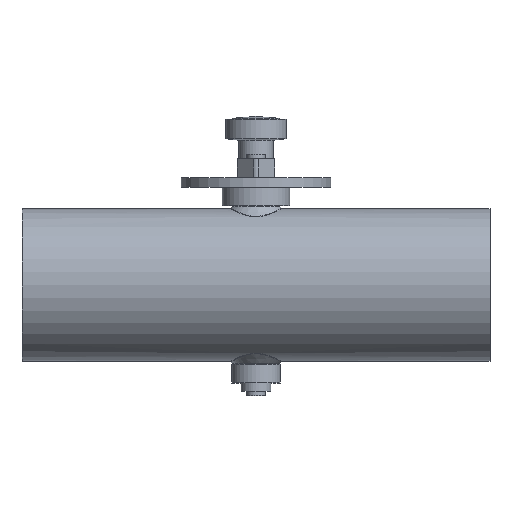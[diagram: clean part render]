
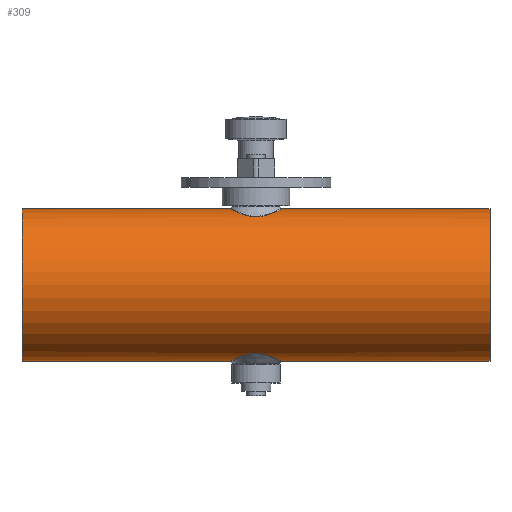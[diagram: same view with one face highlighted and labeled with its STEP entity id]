
A CAD part, top view. The second image highlights one B-rep face of the part: STEP entity #309.
In plain terms, the highlighted cylindrical face has radius 40.8 mm (diameter 81.6 mm), a full revolution.
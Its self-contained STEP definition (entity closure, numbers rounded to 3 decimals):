
#267=CYLINDRICAL_SURFACE('',#1320,40.8);
#299=B_SPLINE_CURVE_WITH_KNOTS('',3,(#1859,#1860,#1861,#1862,#1863,#1864,
#1865,#1866,#1867,#1868,#1869,#1870,#1871,#1872,#1873,#1874,#1875,#1876,
#1877,#1878,#1879,#1880,#1881,#1882,#1883,#1884,#1885,#1886),.UNSPECIFIED.,
 .T.,.F.,(2,2,2,2,2,2,2,2,2,2,2,2,2,2,2,2),(-0.063,0.,0.125,
0.25,0.313,0.375,0.438,
0.5,0.563,0.625,0.75,0.813,0.875,
0.938,1.,1.125),.UNSPECIFIED.);
#300=B_SPLINE_CURVE_WITH_KNOTS('',3,(#1888,#1889,#1890,#1891,#1892,#1893,
#1894,#1895,#1896,#1897,#1898,#1899,#1900,#1901,#1902,#1903,#1904,#1905,
#1906,#1907,#1908,#1909,#1910,#1911,#1912,#1913,#1914,#1915,#1916,#1917),
 .UNSPECIFIED.,.T.,.F.,(2,2,2,2,2,2,2,2,2,2,2,2,2,2,2,2,2),(-0.063,
0.,0.062,0.125,0.188,0.25,0.375,0.438,0.5,0.563,
0.625,0.688,0.75,0.875,0.938,1.,1.063),.UNSPECIFIED.);
#309=ADVANCED_FACE('',(#449,#450,#451,#452),#267,.T.);
#449=FACE_BOUND('',#579,.T.);
#450=FACE_BOUND('',#580,.T.);
#451=FACE_BOUND('',#581,.T.);
#452=FACE_BOUND('',#582,.T.);
#579=EDGE_LOOP('',(#739));
#580=EDGE_LOOP('',(#740));
#581=EDGE_LOOP('',(#741));
#582=EDGE_LOOP('',(#742));
#739=ORIENTED_EDGE('',*,*,#1113,.T.);
#740=ORIENTED_EDGE('',*,*,#1114,.T.);
#741=ORIENTED_EDGE('',*,*,#1109,.T.);
#742=ORIENTED_EDGE('',*,*,#1111,.T.);
#999=VERTEX_POINT('',#1850);
#1001=VERTEX_POINT('',#1855);
#1003=VERTEX_POINT('',#1887);
#1004=VERTEX_POINT('',#1918);
#1109=EDGE_CURVE('',#999,#999,#1241,.T.);
#1111=EDGE_CURVE('',#1001,#1001,#1243,.T.);
#1113=EDGE_CURVE('',#1003,#1003,#299,.T.);
#1114=EDGE_CURVE('',#1004,#1004,#300,.T.);
#1241=CIRCLE('',#1314,40.8);
#1243=CIRCLE('',#1317,40.8);
#1314=AXIS2_PLACEMENT_3D('',#1849,#1476,#1477);
#1317=AXIS2_PLACEMENT_3D('',#1854,#1482,#1483);
#1320=AXIS2_PLACEMENT_3D('',#1919,#1488,#1489);
#1476=DIRECTION('',(-1.,0.,0.));
#1477=DIRECTION('',(0.,0.,1.));
#1482=DIRECTION('',(1.,0.,0.));
#1483=DIRECTION('',(0.,0.,-1.));
#1488=DIRECTION('',(1.,0.,0.));
#1489=DIRECTION('',(0.,0.,-1.));
#1849=CARTESIAN_POINT('',(125.,1.7,125.));
#1850=CARTESIAN_POINT('',(125.,1.7,165.8));
#1854=CARTESIAN_POINT('',(-125.,1.7,125.));
#1855=CARTESIAN_POINT('',(-125.,1.7,84.2));
#1859=CARTESIAN_POINT('',(-5.395,-35.522,108.233));
#1860=CARTESIAN_POINT('',(-10.314,-37.121,112.136));
#1861=CARTESIAN_POINT('',(-12.526,-38.286,115.893));
#1862=CARTESIAN_POINT('',(-14.573,-39.3,124.113));
#1863=CARTESIAN_POINT('',(-14.278,-39.137,128.606));
#1864=CARTESIAN_POINT('',(-11.972,-38.029,134.501));
#1865=CARTESIAN_POINT('',(-10.92,-37.535,136.319));
#1866=CARTESIAN_POINT('',(-8.287,-36.464,139.527));
#1867=CARTESIAN_POINT('',(-6.711,-35.88,140.922));
#1868=CARTESIAN_POINT('',(-2.997,-34.995,142.868));
#1869=CARTESIAN_POINT('',(-0.776,-34.74,143.354));
#1870=CARTESIAN_POINT('',(3.453,-35.035,142.757));
#1871=CARTESIAN_POINT('',(5.401,-35.524,141.764));
#1872=CARTESIAN_POINT('',(8.676,-36.588,139.164));
#1873=CARTESIAN_POINT('',(10.013,-37.153,137.588));
#1874=CARTESIAN_POINT('',(12.212,-38.133,134.022));
#1875=CARTESIAN_POINT('',(13.03,-38.535,132.078));
#1876=CARTESIAN_POINT('',(14.58,-39.303,125.868));
#1877=CARTESIAN_POINT('',(14.29,-39.142,121.43));
#1878=CARTESIAN_POINT('',(11.972,-38.029,115.496));
#1879=CARTESIAN_POINT('',(10.935,-37.541,113.701));
#1880=CARTESIAN_POINT('',(8.286,-36.463,110.47));
#1881=CARTESIAN_POINT('',(6.716,-35.882,109.082));
#1882=CARTESIAN_POINT('',(2.997,-34.995,107.132));
#1883=CARTESIAN_POINT('',(0.781,-34.74,106.646));
#1884=CARTESIAN_POINT('',(-3.455,-35.035,107.243));
#1885=CARTESIAN_POINT('',(-5.395,-35.522,108.233));
#1886=CARTESIAN_POINT('',(-10.314,-37.121,112.136));
#1887=CARTESIAN_POINT('',(-7.035,-36.055,109.534));
#1888=CARTESIAN_POINT('',(-8.677,39.989,110.837));
#1889=CARTESIAN_POINT('',(-5.393,38.921,108.231));
#1890=CARTESIAN_POINT('',(-3.45,38.434,107.241));
#1891=CARTESIAN_POINT('',(0.792,38.14,106.646));
#1892=CARTESIAN_POINT('',(3.004,38.396,107.134));
#1893=CARTESIAN_POINT('',(6.717,39.282,109.083));
#1894=CARTESIAN_POINT('',(8.288,39.864,110.473));
#1895=CARTESIAN_POINT('',(10.931,40.94,113.696));
#1896=CARTESIAN_POINT('',(11.98,41.432,115.513));
#1897=CARTESIAN_POINT('',(14.288,42.542,121.434));
#1898=CARTESIAN_POINT('',(14.582,42.704,125.865));
#1899=CARTESIAN_POINT('',(13.027,41.934,132.088));
#1900=CARTESIAN_POINT('',(12.211,41.533,134.023));
#1901=CARTESIAN_POINT('',(10.01,40.552,137.592));
#1902=CARTESIAN_POINT('',(8.677,39.989,139.161));
#1903=CARTESIAN_POINT('',(5.414,38.928,141.755));
#1904=CARTESIAN_POINT('',(3.469,38.437,142.752));
#1905=CARTESIAN_POINT('',(-0.771,38.14,143.355));
#1906=CARTESIAN_POINT('',(-2.988,38.393,142.871));
#1907=CARTESIAN_POINT('',(-6.705,39.278,140.927));
#1908=CARTESIAN_POINT('',(-8.278,39.86,139.536));
#1909=CARTESIAN_POINT('',(-10.923,40.936,136.316));
#1910=CARTESIAN_POINT('',(-11.974,41.429,134.5));
#1911=CARTESIAN_POINT('',(-14.288,42.542,128.573));
#1912=CARTESIAN_POINT('',(-14.582,42.704,124.14));
#1913=CARTESIAN_POINT('',(-13.03,41.935,117.919));
#1914=CARTESIAN_POINT('',(-12.213,41.533,115.98));
#1915=CARTESIAN_POINT('',(-10.013,40.553,112.411));
#1916=CARTESIAN_POINT('',(-8.677,39.989,110.837));
#1917=CARTESIAN_POINT('',(-5.393,38.921,108.231));
#1918=CARTESIAN_POINT('',(-7.035,39.455,109.534));
#1919=CARTESIAN_POINT('',(-125.,1.7,125.));
